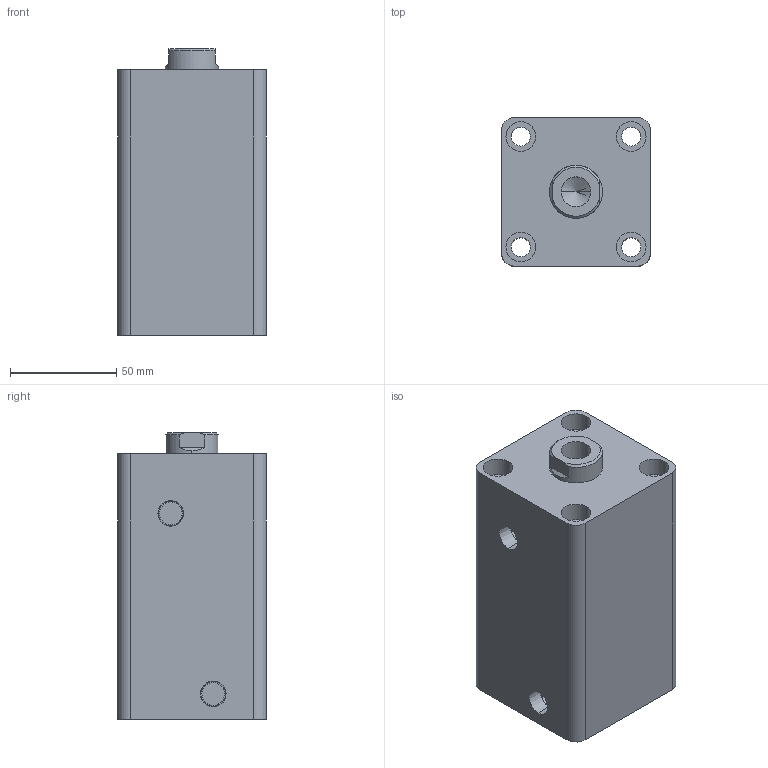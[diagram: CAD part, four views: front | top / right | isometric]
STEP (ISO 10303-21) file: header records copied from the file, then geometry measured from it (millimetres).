
FILE_DESCRIPTION (( 'STEP AP203' ), '1' );
FILE_NAME ('HTB-SD40-70N.STEP', '2019-10-07T06:54:58', ( '微软用户' ), ( '微软中国' ), 'SwSTEP 2.0', 'SolidWorks 2012', '' );
FILE_SCHEMA (( 'CONFIG_CONTROL_DESIGN' ));
Length unit declared in the file: millimetre
Products named in the file (3): HTB-SD40-70N; HTB-SD40-70掛极; HTB-SD40-70N活塞杆
Assembly tree (2 placements, depth 2):
  HTB-SD40-70N
    HTB-SD40-70掛极
    HTB-SD40-70N活塞杆
Bounding box: 70 x 70 x 135 mm (x, y, z)
Volume: 516179.7 mm3; surface area: 87570.3 mm2
Topology: 2 solids, 2 shells, 81 faces, 180 edges, 117 vertices
Faces by surface type: cylinder 42, plane 27, cone 8, torus 4
Entity records: 2603 total; most frequent: DIRECTION 444, CARTESIAN_POINT 409, ORIENTED_EDGE 356, AXIS2_PLACEMENT_3D 188, EDGE_CURVE 178, VERTEX_POINT 117, EDGE_LOOP 105, CIRCLE 102
